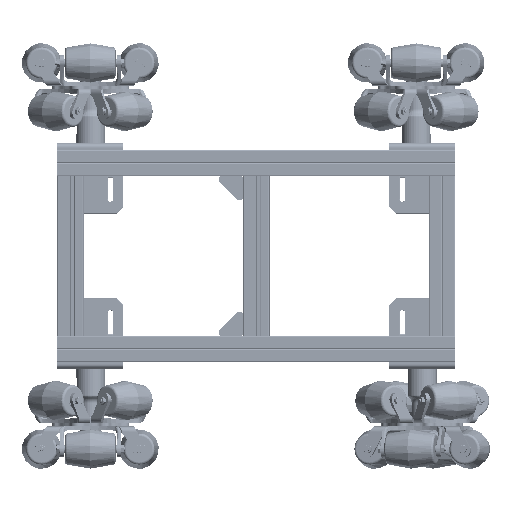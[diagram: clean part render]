
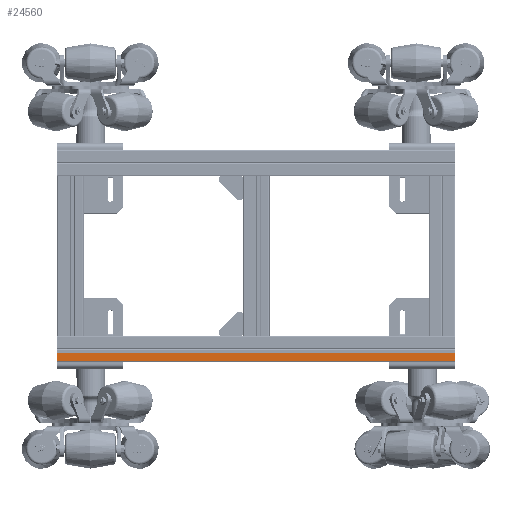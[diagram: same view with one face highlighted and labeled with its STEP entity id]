
A CAD part, front view. The second image highlights one B-rep face of the part: STEP entity #24560.
In plain terms, the highlighted planar face has unit normal (0, -1, 0) as drawn and (-1, 0, 0) by its records, which use the part's own axes.
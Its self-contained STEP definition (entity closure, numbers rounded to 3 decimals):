
#2320=FACE_OUTER_BOUND('',#3753,.T.);
#3753=EDGE_LOOP('',(#16923,#16924,#16925,#16926));
#6473=LINE('',#37112,#8711);
#6576=LINE('',#37346,#8814);
#6577=LINE('',#37350,#8815);
#6578=LINE('',#37351,#8816);
#8711=VECTOR('',#29461,10.);
#8814=VECTOR('',#29668,1.);
#8815=VECTOR('',#29673,1.);
#8816=VECTOR('',#29674,1.);
#10954=VERTEX_POINT('',#37109);
#10955=VERTEX_POINT('',#37111);
#11034=VERTEX_POINT('',#37345);
#11035=VERTEX_POINT('',#37349);
#13193=EDGE_CURVE('',#10954,#10955,#6473,.T.);
#13310=EDGE_CURVE('',#10955,#11034,#6576,.T.);
#13312=EDGE_CURVE('',#10954,#11035,#6577,.T.);
#13313=EDGE_CURVE('',#11034,#11035,#6578,.T.);
#16923=ORIENTED_EDGE('',*,*,#13310,.F.);
#16924=ORIENTED_EDGE('',*,*,#13193,.F.);
#16925=ORIENTED_EDGE('',*,*,#13312,.T.);
#16926=ORIENTED_EDGE('',*,*,#13313,.F.);
#23806=PLANE('',#26788);
#24560=ADVANCED_FACE('',(#2320),#23806,.F.);
#26788=AXIS2_PLACEMENT_3D('',#37348,#29671,#29672);
#29461=DIRECTION('',(0.,0.,1.));
#29668=DIRECTION('',(0.,-1.,0.));
#29671=DIRECTION('center_axis',(1.,0.,0.));
#29672=DIRECTION('ref_axis',(0.,0.,-1.));
#29673=DIRECTION('',(0.,-1.,0.));
#29674=DIRECTION('',(0.,0.,-1.));
#37109=CARTESIAN_POINT('',(-10.,290.,-9.));
#37111=CARTESIAN_POINT('',(-10.,290.,-3.3));
#37112=CARTESIAN_POINT('',(-10.,290.,-9.));
#37345=CARTESIAN_POINT('',(-10.,-10.,-3.3));
#37346=CARTESIAN_POINT('',(-10.,0.,-3.3));
#37348=CARTESIAN_POINT('Origin',(-10.,0.,-3.3));
#37349=CARTESIAN_POINT('',(-10.,-10.,-9.));
#37350=CARTESIAN_POINT('',(-10.,0.,-9.));
#37351=CARTESIAN_POINT('',(-10.,-10.,-3.3));
